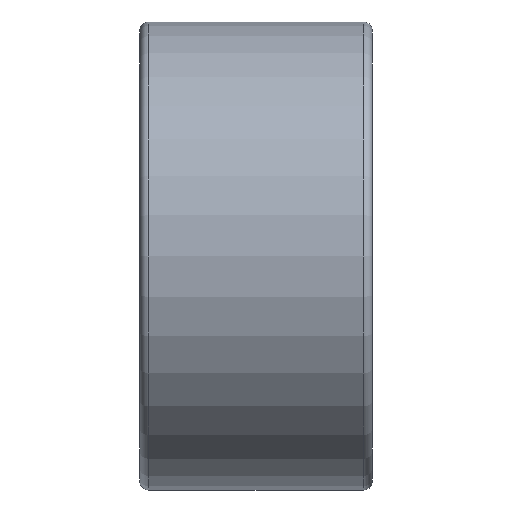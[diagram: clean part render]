
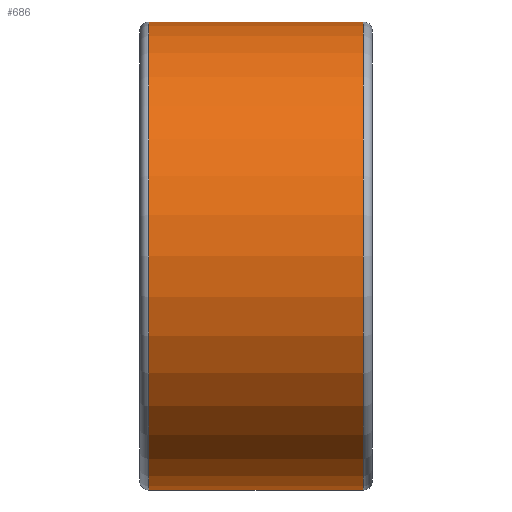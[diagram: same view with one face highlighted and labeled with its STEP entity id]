
A CAD part, front view. The second image highlights one B-rep face of the part: STEP entity #686.
In plain terms, the highlighted cylindrical face has radius 16 mm (diameter 32 mm), a full revolution.
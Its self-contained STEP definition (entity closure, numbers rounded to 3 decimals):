
#191=FACE_BOUND($,#298,.T.);
#232=FACE_OUTER_BOUND($,#297,.T.);
#297=EDGE_LOOP($,(#625));
#298=EDGE_LOOP($,(#626));
#346=CIRCLE($,#771,16.);
#347=CIRCLE($,#773,16.);
#406=VERTEX_POINT($,#1897);
#407=VERTEX_POINT($,#1900);
#481=EDGE_CURVE($,#406,#406,#346,.T.);
#482=EDGE_CURVE($,#407,#407,#347,.T.);
#625=ORIENTED_EDGE($,*,*,#481,.T.);
#626=ORIENTED_EDGE($,*,*,#482,.F.);
#645=CYLINDRICAL_SURFACE($,#772,16.);
#686=ADVANCED_FACE($,(#232,#191),#645,.T.);
#771=AXIS2_PLACEMENT_3D($,#1898,#946,#947);
#772=AXIS2_PLACEMENT_3D($,#1899,#948,#949);
#773=AXIS2_PLACEMENT_3D($,#1901,#950,#951);
#946=DIRECTION('center_axis',(1.,0.,0.));
#947=DIRECTION('ref_axis',(0.,0.,-1.));
#948=DIRECTION('center_axis',(1.,0.,0.));
#949=DIRECTION('ref_axis',(0.,1.,0.));
#950=DIRECTION('center_axis',(1.,0.,0.));
#951=DIRECTION('ref_axis',(0.,0.,-1.));
#1897=CARTESIAN_POINT('',(-7.35,16.,0.));
#1898=CARTESIAN_POINT('Origin',(-7.35,0.,0.));
#1899=CARTESIAN_POINT('Origin',(0.,0.,0.));
#1900=CARTESIAN_POINT('',(7.35,16.,0.));
#1901=CARTESIAN_POINT('Origin',(7.35,0.,0.));
